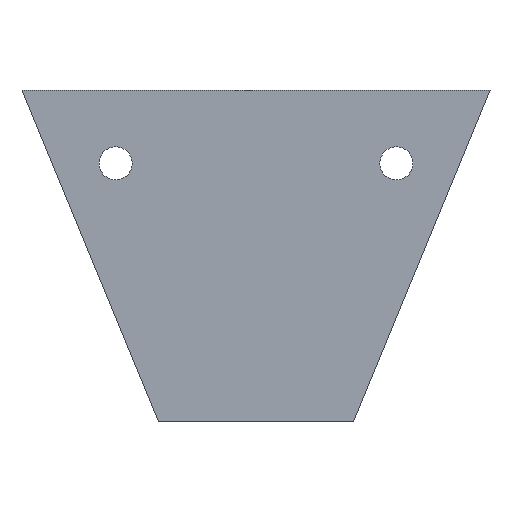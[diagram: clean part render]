
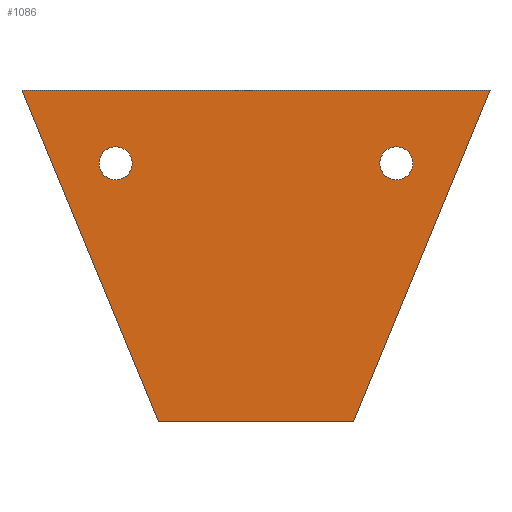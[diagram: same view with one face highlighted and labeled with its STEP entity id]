
A CAD part, front view. The second image highlights one B-rep face of the part: STEP entity #1086.
In plain terms, the highlighted planar face has unit normal (0, -1, 0).
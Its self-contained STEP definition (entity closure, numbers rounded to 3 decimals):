
#95 = VERTEX_POINT ( 'NONE', #789 ) ;
#158 = CARTESIAN_POINT ( 'NONE',  ( 0., -2.5, 0. ) ) ;
#181 = ORIENTED_EDGE ( 'NONE', *, *, #1793, .F. ) ;
#276 = AXIS2_PLACEMENT_3D ( 'NONE', #364, #1680, #367 ) ;
#307 = EDGE_LOOP ( 'NONE', ( #1145, #779 ) ) ;
#359 = ORIENTED_EDGE ( 'NONE', *, *, #551, .T. ) ;
#364 = CARTESIAN_POINT ( 'NONE',  ( 48., -2.5, -37.5 ) ) ;
#367 = DIRECTION ( 'NONE',  ( 0., 0., 1. ) ) ;
#405 = DIRECTION ( 'NONE',  ( 0., 1., 0. ) ) ;
#436 = DIRECTION ( 'NONE',  ( 0., 0., -1. ) ) ;
#463 = EDGE_LOOP ( 'NONE', ( #1509, #181, #742, #1122 ) ) ;
#507 = LINE ( 'NONE', #1409, #1197 ) ;
#547 = DIRECTION ( 'NONE',  ( 0., 0., 1. ) ) ;
#551 = EDGE_CURVE ( 'NONE', #969, #1257, #635, .T. ) ;
#624 = AXIS2_PLACEMENT_3D ( 'NONE', #1529, #956, #1812 ) ;
#630 = VERTEX_POINT ( 'NONE', #1595 ) ;
#633 = FACE_BOUND ( 'NONE', #884, .T. ) ;
#635 = CIRCLE ( 'NONE', #1740, 8.5 ) ;
#648 = LINE ( 'NONE', #845, #1461 ) ;
#742 = ORIENTED_EDGE ( 'NONE', *, *, #990, .F. ) ;
#772 = LINE ( 'NONE', #881, #1491 ) ;
#779 = ORIENTED_EDGE ( 'NONE', *, *, #1068, .T. ) ;
#789 = CARTESIAN_POINT ( 'NONE',  ( 48., -2.5, -29. ) ) ;
#829 = PLANE ( 'NONE',  #1614 ) ;
#842 = CARTESIAN_POINT ( 'NONE',  ( 192., -2.5, -29. ) ) ;
#845 = CARTESIAN_POINT ( 'NONE',  ( 70., -2.5, -170. ) ) ;
#852 = CARTESIAN_POINT ( 'NONE',  ( 170., -2.5, -170. ) ) ;
#861 = CARTESIAN_POINT ( 'NONE',  ( 192., -2.5, -37.5 ) ) ;
#881 = CARTESIAN_POINT ( 'NONE',  ( 0., -2.5, 0. ) ) ;
#884 = EDGE_LOOP ( 'NONE', ( #359, #1262 ) ) ;
#890 = CARTESIAN_POINT ( 'NONE',  ( 192., -2.5, -46. ) ) ;
#920 = EDGE_CURVE ( 'NONE', #95, #1291, #951, .T. ) ;
#925 = CARTESIAN_POINT ( 'NONE',  ( 240., -2.5, 0. ) ) ;
#951 = CIRCLE ( 'NONE', #276, 8.5 ) ;
#956 = DIRECTION ( 'NONE',  ( 0., 1., 0. ) ) ;
#969 = VERTEX_POINT ( 'NONE', #842 ) ;
#972 = VERTEX_POINT ( 'NONE', #852 ) ;
#975 = FACE_OUTER_BOUND ( 'NONE', #463, .T. ) ;
#990 = EDGE_CURVE ( 'NONE', #1428, #972, #507, .T. ) ;
#993 = VERTEX_POINT ( 'NONE', #1268 ) ;
#1003 = DIRECTION ( 'NONE',  ( 0., 1., 0. ) ) ;
#1011 = DIRECTION ( 'NONE',  ( 0., -1., 0. ) ) ;
#1055 = DIRECTION ( 'NONE',  ( 1., 0., 0. ) ) ;
#1068 = EDGE_CURVE ( 'NONE', #1291, #95, #1598, .T. ) ;
#1086 = ADVANCED_FACE ( 'NONE', ( #633, #1534, #975 ), #829, .T. ) ;
#1122 = ORIENTED_EDGE ( 'NONE', *, *, #1507, .F. ) ;
#1145 = ORIENTED_EDGE ( 'NONE', *, *, #920, .T. ) ;
#1197 = VECTOR ( 'NONE', #1250, 1000. ) ;
#1219 = EDGE_CURVE ( 'NONE', #993, #630, #772, .T. ) ;
#1250 = DIRECTION ( 'NONE',  ( -0.381, 0., -0.925 ) ) ;
#1257 = VERTEX_POINT ( 'NONE', #890 ) ;
#1262 = ORIENTED_EDGE ( 'NONE', *, *, #1762, .T. ) ;
#1268 = CARTESIAN_POINT ( 'NONE',  ( 70., -2.5, -170. ) ) ;
#1274 = DIRECTION ( 'NONE',  ( -0.381, 0., 0.925 ) ) ;
#1285 = DIRECTION ( 'NONE',  ( 0., 0., 1. ) ) ;
#1291 = VERTEX_POINT ( 'NONE', #1628 ) ;
#1367 = CIRCLE ( 'NONE', #624, 8.5 ) ;
#1409 = CARTESIAN_POINT ( 'NONE',  ( 170., -2.5, -170. ) ) ;
#1428 = VERTEX_POINT ( 'NONE', #925 ) ;
#1461 = VECTOR ( 'NONE', #1833, 1000. ) ;
#1491 = VECTOR ( 'NONE', #1274, 1000. ) ;
#1507 = EDGE_CURVE ( 'NONE', #630, #1428, #1620, .T. ) ;
#1509 = ORIENTED_EDGE ( 'NONE', *, *, #1219, .F. ) ;
#1529 = CARTESIAN_POINT ( 'NONE',  ( 192., -2.5, -37.5 ) ) ;
#1534 = FACE_BOUND ( 'NONE', #307, .T. ) ;
#1544 = AXIS2_PLACEMENT_3D ( 'NONE', #1831, #405, #547 ) ;
#1595 = CARTESIAN_POINT ( 'NONE',  ( 0., -2.5, 0. ) ) ;
#1598 = CIRCLE ( 'NONE', #1544, 8.5 ) ;
#1614 = AXIS2_PLACEMENT_3D ( 'NONE', #158, #1011, #436 ) ;
#1620 = LINE ( 'NONE', #1655, #1667 ) ;
#1628 = CARTESIAN_POINT ( 'NONE',  ( 48., -2.5, -46. ) ) ;
#1655 = CARTESIAN_POINT ( 'NONE',  ( 0., -2.5, 0. ) ) ;
#1667 = VECTOR ( 'NONE', #1055, 1000. ) ;
#1680 = DIRECTION ( 'NONE',  ( 0., 1., 0. ) ) ;
#1740 = AXIS2_PLACEMENT_3D ( 'NONE', #861, #1003, #1285 ) ;
#1762 = EDGE_CURVE ( 'NONE', #1257, #969, #1367, .T. ) ;
#1793 = EDGE_CURVE ( 'NONE', #972, #993, #648, .T. ) ;
#1812 = DIRECTION ( 'NONE',  ( 0., 0., 1. ) ) ;
#1831 = CARTESIAN_POINT ( 'NONE',  ( 48., -2.5, -37.5 ) ) ;
#1833 = DIRECTION ( 'NONE',  ( -1., 0., 0. ) ) ;
